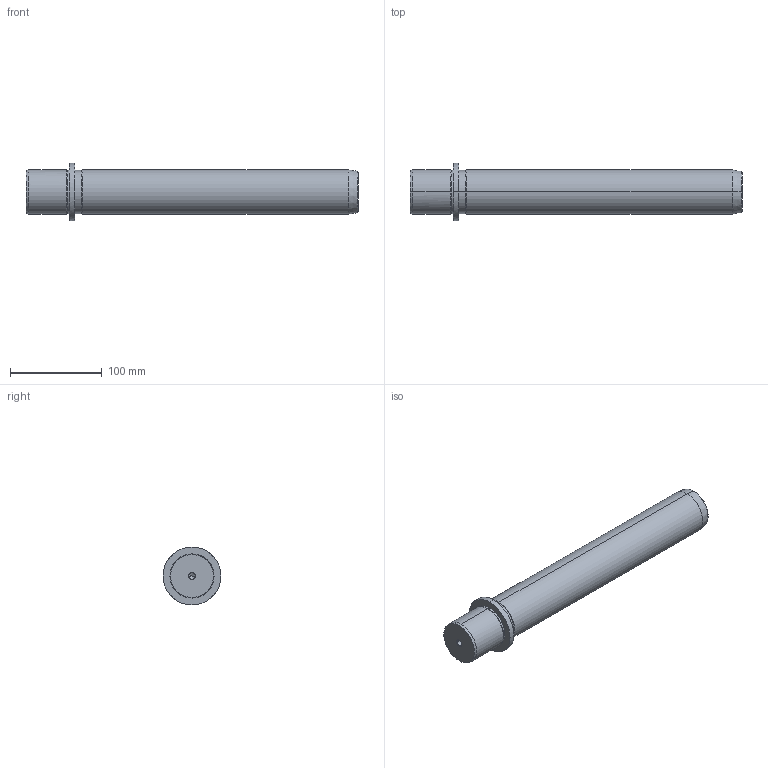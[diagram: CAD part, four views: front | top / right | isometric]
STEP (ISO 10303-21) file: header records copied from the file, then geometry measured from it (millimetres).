
FILE_DESCRIPTION(('CATIA V5 STEP Exchange'),'2;1');
FILE_NAME('C:\Users\Utente\Desktop\IO LAVORO\3D X SITO CF\X SITO\719\719-48x315.stp','2021-01-03T15:14:48+00:00',('none'),('none'),'CATIA Version 5 Release 20 GA (IN-10)','CATIA V5 STEP AP203','none');
FILE_SCHEMA(('CONFIG_CONTROL_DESIGN'));
Length unit declared in the file: millimetre
Products named in the file (1): 719-48x315
Bounding box: 362 x 63 x 63 mm (x, y, z)
Volume: 659127.7 mm3; surface area: 61914.1 mm2
Topology: 1 solids, 1 shells, 36 faces, 100 edges, 66 vertices
Faces by surface type: cone 16, cylinder 14, plane 4, torus 2
Entity records: 1270 total; most frequent: CARTESIAN_POINT 339, ORIENTED_EDGE 192, DIRECTION 158, EDGE_CURVE 96, AXIS2_PLACEMENT_3D 93, VERTEX_POINT 66, CIRCLE 56, EDGE_LOOP 40
